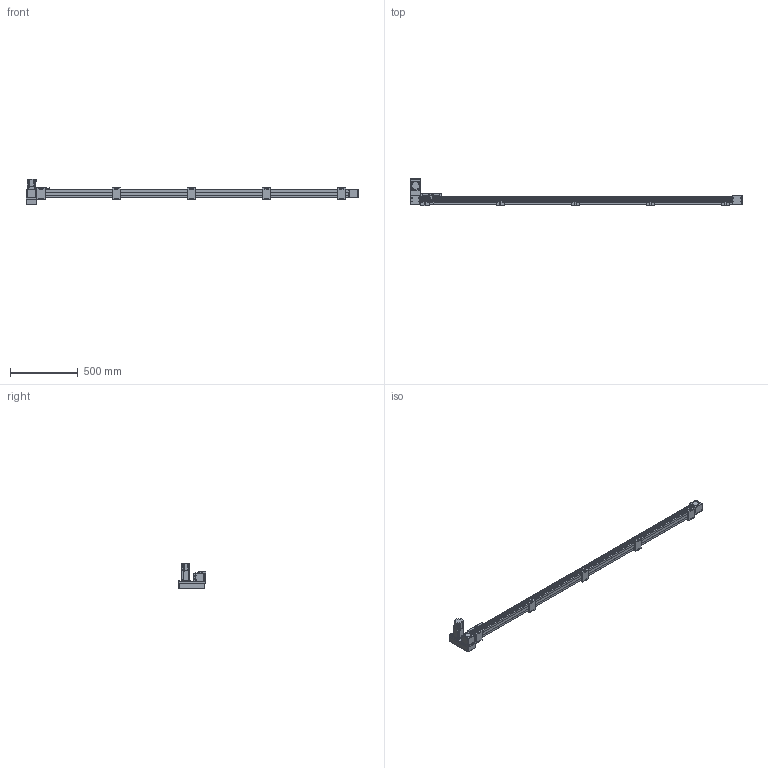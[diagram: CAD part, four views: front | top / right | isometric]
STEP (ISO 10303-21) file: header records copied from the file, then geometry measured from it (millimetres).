
FILE_DESCRIPTION(/* description */ ('STEP AP214'),/* implementation_level */ '2;1');
FILE_NAME(/* name */ 'SK60-P13-S2150-LU-T40-C1-N(0)',/* time_stamp */ '2023-04-06T04:48:32+02:00',/* author */ ('License CC BY-ND 4.0'),/* organization */ ('CADENAS'),/* preprocessor_version */ 'ST-DEVELOPER v19.3',/* originating_system */ 'PARTsolutions',/* authorisation */ ' ');
FILE_SCHEMA (('AUTOMOTIVE_DESIGN {1 0 10303 214 3 1 1}'));
Length unit declared in the file: millimetre
Products named in the file (10): SK60-P13-S2150-LU-T40-C1-N(0); PSC140-sensor; SK60-S450_seat; SK60-S450-BL-C1_slider; SK60_body3; SK60_body6; SK60-BL_body2; T40-p1; SK60-LU_fb; SK60-S2150-LU-C1_body
Assembly tree (19 placements, depth 2):
  SK60-P13-S2150-LU-T40-C1-N(0)
    PSC140-sensor  x3
    SK60-S450_seat  x5
    SK60-S450-BL-C1_slider
    SK60_body3  x3
    SK60_body6  x2
    SK60-BL_body2  x2
    T40-p1
    SK60-LU_fb
    SK60-S2150-LU-C1_body
Bounding box: 2455.5 x 201 x 189.7 mm (x, y, z)
Volume: 9554245.1 mm3; surface area: 1140861.7 mm2
Topology: 19 solids, 19 shells, 942 faces, 2342 edges, 1541 vertices
Faces by surface type: plane 596, cylinder 310, cone 34, torus 2
Full cylindrical faces by diameter (mm): 2.8 x3, 3.3 x4, 4 x2, 4.5 x30, 4.6 x3, 4.917 x28, 5 x6, 5.478 x4, 5.5 x31, 6.5 x10, 7 x2, 8 x4, 8.5 x4, 9.988 x4, 10 x20, 14 x1, 47 x3, 50 x2
Entity records: 18679 total; most frequent: DIRECTION 3190, CARTESIAN_POINT 3153, ORIENTED_EDGE 2940, EDGE_CURVE 1470, AXIS2_PLACEMENT_3D 1071, LINE 1048, VECTOR 1048, VERTEX_POINT 1034
